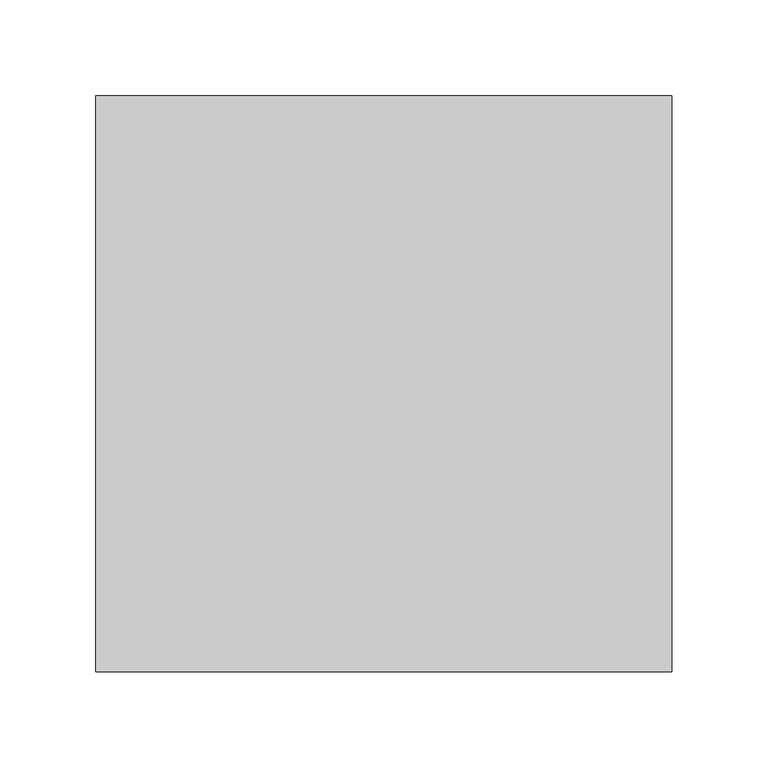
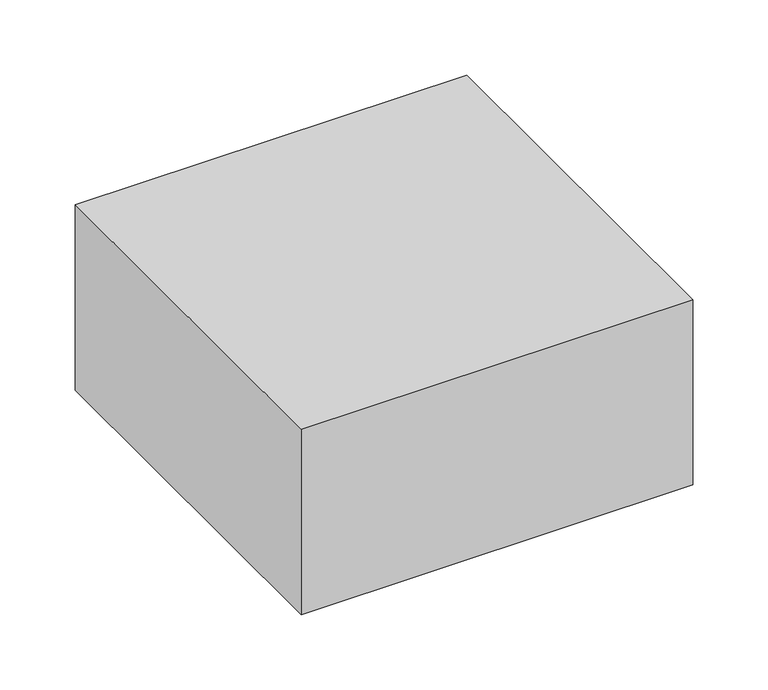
"""IFC4 building model written with IfcOpenShell, lengths in millimetres: proxy geometry, Módulo Laje de Concreto Celular - Celucon : MLCC 15x30x30cm (A x B x B)."""

from ifc_helpers import new_model, si_unit, origin, origin_with_axes, place, context, project, spatial, polyline, outline, extrude, source, transform, mapped, element, save


def generic_models_478de73a(model_context):
    return source(origin(), model_context, "Body", "SweptSolid", [
        extrude(outline(polyline([(150.0, 150.0), (150.0, -150.0), (-150.0, -150.0), (-150.0, 150.0), (150.0, 150.0)])), origin_with_axes(), (0.0, 0.0, 1.0), 150.0),
    ])


if __name__ == "__main__":
    model = new_model("IFC4")
    model_context = context("Model", 3, world=origin())
    ifc_project = project(units=[si_unit("LENGTHUNIT", "METRE", prefix="MILLI")], contexts=[model_context])
    site = spatial("IfcSite", under=ifc_project)
    building = spatial("IfcBuilding", under=site)
    placement = place(None, origin())
    generic_models_shape = generic_models_478de73a(model_context)
    element("IfcBuildingElementProxy", 1, Name="Módulo Laje de Concreto Celular - Celucon : MLCC 15x30x30cm (A x B x B)", ObjectType="Módulo Laje de Concreto Celular - Celucon : MLCC 15x30x30cm (A x B x B)", at=placement, inside=building, context=model_context, shape_type="MappedRepresentation", body=[
        mapped(generic_models_shape, transform((0.0, 0.0, 0.0), x_axis=(1.0, 0.0, 0.0), y_axis=(0.0, 1.0, 0.0), z_axis=(0.0, 0.0, 1.0))),
    ])
    save(model, "model.ifc")
